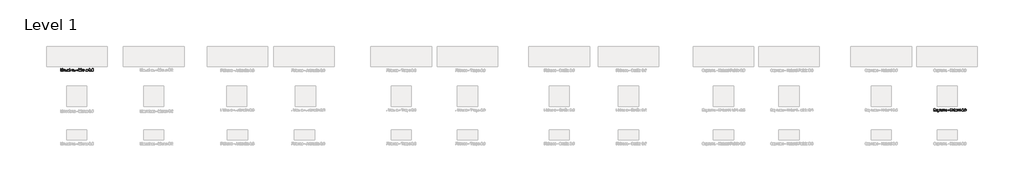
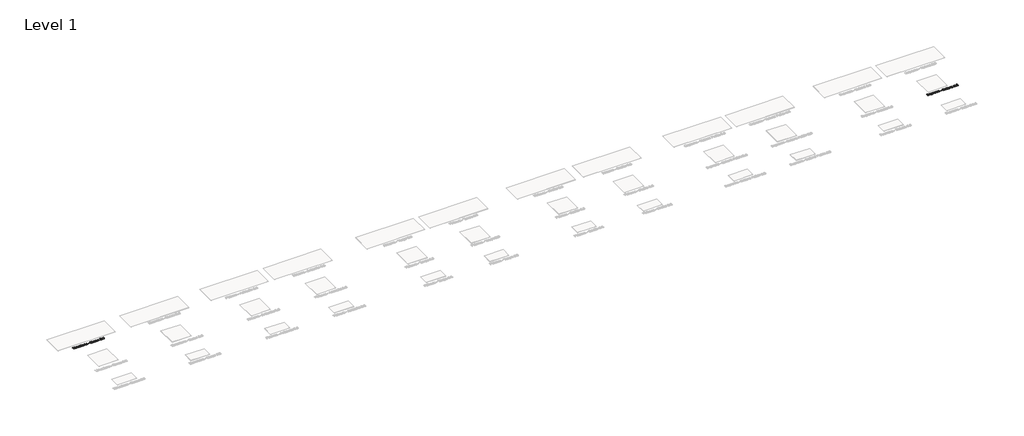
# One storey, part 40 of 80: 2 proxies.
"""IFC4 building model written with IfcOpenShell, lengths in millimetres."""

from ifc_helpers import new_model, si_unit, origin, origin_with_axes, place, context, project, spatial, polyline, outline, extrude, element, save

model = new_model("IFC4")

# Units and contexts
model_context = context("Model", 3, world=origin())
ifc_project = project(units=[si_unit("LENGTHUNIT", "METRE", prefix="MILLI")], contexts=[model_context])

# Site, building, storey
site = spatial("IfcSite", under=ifc_project)
building = spatial("IfcBuilding", under=site)
storey = spatial("IfcBuildingStorey", under=building, Name="Level 1", Elevation=0.0)

# Proxies
placement = place(None, origin())
element("IfcBuildingElementProxy", 1, Name="24\" Arial", ObjectType="24\" Arial", at=placement, inside=storey, context=model_context, shape_type="SweptSolid", body=[
    extrude(outline(polyline([(15932.6161998, -575.9830961), (15947.3854306, -575.9830961), (15952.1450459, -590.76675), (15963.7700459, -600.1129038), (15981.4815844, -603.6754038), (15996.9142767, -600.9782884), (16006.8806229, -593.5648269), (16010.1546613, -583.6561731), (16007.7027383, -574.4398269), (15997.6642767, -567.7330961), (15976.159469, -562.0936731), (15953.0104306, -554.8100192), (15940.4479306, -543.8196346), (15936.3085075, -529.1369423), (15941.4286998, -512.4205961), (15956.3854306, -500.6225192), (15978.2796613, -496.5984808), (16001.6450459, -500.8100192), (16017.221969, -513.1850192), (16023.0777383, -531.6754038), (16008.3085075, -531.6754038), (16005.596969, -522.8629038), (15999.9431229, -516.5023269), (15991.1089883, -512.6513654), (15978.8565844, -511.3677115), (15966.315719, -512.6369423), (15957.7123536, -516.4446346), (15952.7363921, -522.048), (15951.0777383, -528.70425), (15955.7796613, -538.9446346), (15979.8950459, -547.1946346), (16006.0296613, -554.6080961), (16020.3229306, -566.57925), (16024.9238921, -583.2811731), (16019.6306229, -600.9494423), (16004.3998536, -613.8436731), (15982.0585075, -618.4446346), (15955.6786998, -613.4830961), (15946.1919209, -607.26675), (15938.9911998, -598.5407884), (15932.6161998, -575.9830961)])), origin_with_axes(), (0.0, 0.0, 1.0), 2.0),
    extrude(outline(polyline([(16100.6161998, -616.5984808), (16100.6161998, -601.6850192), (16089.0488921, -614.2547308), (16073.9623536, -618.4446346), (16060.0729306, -615.5023269), (16050.4960075, -608.1177115), (16046.096969, -597.2427115), (16045.2315844, -583.5119423), (16045.2315844, -529.82925), (16060.0008152, -529.82925), (16060.0008152, -576.5600192), (16060.8950459, -591.6177115), (16066.7363921, -600.4590577), (16077.7411998, -603.6754038), (16090.0729306, -600.3869423), (16098.221969, -591.4302115), (16100.6161998, -574.9734808), (16100.6161998, -529.82925), (16115.3854306, -529.82925), (16115.3854306, -616.5984808), (16100.6161998, -616.5984808)])), origin_with_axes(), (0.0, 0.0, 1.0), 2.0),
    extrude(outline(polyline([(16135.6931229, -649.82925), (16135.6931229, -529.82925), (16150.4623536, -529.82925), (16150.4623536, -544.3100192), (16160.6738921, -532.0648269), (16174.4623536, -527.9830961), (16193.1835075, -533.6946346), (16205.4142767, -549.7907884), (16209.5392767, -572.5504038), (16204.8806229, -596.4782884), (16199.1690844, -605.8677115), (16191.3517767, -612.7763654), (16172.6738921, -618.4446346), (16159.8229306, -614.6513654), (16150.4623536, -605.0600192), (16150.4623536, -649.82925), (16135.6931229, -649.82925)]), holes=[polyline([(16150.4623536, -573.9061731), (16152.0597094, -587.1465577), (16156.8517767, -596.4061731), (16163.9226902, -601.8580961), (16172.3565844, -603.6754038), (16180.9274979, -601.7931923), (16188.1786998, -596.1465577), (16193.1222094, -586.548), (16194.7700459, -572.8100192), (16193.1618729, -559.64175), (16188.3373536, -550.2523269), (16181.2772575, -544.6273269), (16172.9623536, -542.7523269), (16164.6149979, -544.7463173), (16157.284469, -550.7282884), (16152.1678825, -560.5107404), (16150.4623536, -573.9061731)])]), origin_with_axes(), (0.0, 0.0, 1.0), 2.0),
    extrude(outline(polyline([(16226.1546613, -616.5984808), (16226.1546613, -529.82925), (16239.0777383, -529.82925), (16239.0777383, -542.6657884), (16248.2508152, -530.8388654), (16257.4815844, -527.9830961), (16272.3085075, -532.5407884), (16267.3758152, -545.7811731), (16256.9911998, -542.7523269), (16248.6402383, -545.6657884), (16243.3181229, -553.7427115), (16240.9238921, -570.9927115), (16240.9238921, -616.5984808), (16226.1546613, -616.5984808)])), origin_with_axes(), (0.0, 0.0, 1.0), 2.0),
    extrude(outline(polyline([(16342.2892767, -590.7523269), (16356.7700459, -592.5984808), (16351.5524979, -603.5095384), (16343.2267767, -611.6657884), (16331.9803825, -616.7499231), (16318.0008152, -618.4446346), (16300.6714883, -615.5203558), (16287.3373536, -606.7475192), (16278.8349498, -592.6958365), (16276.0008152, -573.9350192), (16278.8637959, -554.5431923), (16287.4527383, -540.0407884), (16300.6065844, -530.9975192), (16317.1642767, -527.9830961), (16333.206344, -530.9903077), (16346.0248536, -540.0119423), (16354.4299017, -554.4855), (16357.2315844, -573.8484808), (16357.1450459, -577.82925), (16290.7700459, -577.82925), (16293.3265363, -588.8845384), (16299.2652383, -597.0119423), (16307.8361517, -602.0095384), (16318.2892767, -603.6754038), (16332.7700459, -600.5888654), (16342.2892767, -590.7523269)]), holes=[polyline([(16290.7700459, -563.0600192), (16342.4623536, -563.0600192), (16336.5488921, -549.6754038), (16327.9383152, -544.4830961), (16317.1065844, -542.7523269), (16298.9190844, -548.2763654), (16293.1967286, -554.7342981), (16290.7700459, -563.0600192)])]), origin_with_axes(), (0.0, 0.0, 1.0), 2.0),
    extrude(outline(polyline([(16372.0008152, -616.5984808), (16372.0008152, -529.82925), (16386.7700459, -529.82925), (16386.7700459, -544.1080961), (16396.9238921, -532.4109808), (16411.3758152, -527.9830961), (16426.1738921, -532.4975192), (16434.3085075, -545.1465577), (16445.8325459, -532.2739615), (16460.3854306, -527.9830961), (16471.487594, -529.7679519), (16479.6979306, -535.1225192), (16484.7712479, -544.1910288), (16486.4623536, -557.1177115), (16486.4623536, -616.5984808), (16471.6931229, -616.5984808), (16471.6931229, -563.4638654), (16470.3229306, -551.1321346), (16465.3613921, -545.0600192), (16456.9238921, -542.7523269), (16448.9226902, -544.2306923), (16442.3998536, -548.6657884), (16438.0621133, -556.3605), (16436.6161998, -567.6177115), (16436.6161998, -616.5984808), (16421.846969, -616.5984808), (16421.846969, -561.8196346), (16418.4286998, -547.5119423), (16407.221969, -542.7523269), (16396.2892767, -545.9254038), (16389.0200459, -555.2138654), (16386.7700459, -572.8388654), (16386.7700459, -616.5984808), (16372.0008152, -616.5984808)])), origin_with_axes(), (0.0, 0.0, 1.0), 2.0),
    extrude(outline(polyline([(16569.3661998, -590.7523269), (16583.846969, -592.5984808), (16578.6294209, -603.5095384), (16570.3036998, -611.6657884), (16559.0573056, -616.7499231), (16545.0777383, -618.4446346), (16527.7484113, -615.5203558), (16514.4142767, -606.7475192), (16505.9118729, -592.6958365), (16503.0777383, -573.9350192), (16505.940719, -554.5431923), (16514.5296613, -540.0407884), (16527.6835075, -530.9975192), (16544.2411998, -527.9830961), (16560.2832671, -530.9903077), (16573.1017767, -540.0119423), (16581.5068248, -554.4855), (16584.3085075, -573.8484808), (16584.221969, -577.82925), (16517.846969, -577.82925), (16520.4034594, -588.8845384), (16526.3421613, -597.0119423), (16534.9130748, -602.0095384), (16545.3661998, -603.6754038), (16559.846969, -600.5888654), (16569.3661998, -590.7523269)]), holes=[polyline([(16517.846969, -563.0600192), (16569.5392767, -563.0600192), (16563.6258152, -549.6754038), (16555.0152383, -544.4830961), (16544.1835075, -542.7523269), (16525.9960075, -548.2763654), (16520.2736517, -554.7342981), (16517.846969, -563.0600192)])]), origin_with_axes(), (0.0, 0.0, 1.0), 2.0),
    extrude(outline(polyline([(16637.846969, -581.5215577), (16637.846969, -566.7523269), (16684.0008152, -566.7523269), (16684.0008152, -581.5215577), (16637.846969, -581.5215577)])), origin_with_axes(), (0.0, 0.0, 1.0), 2.0),
    extrude(outline(polyline([(16748.6161998, -616.5984808), (16748.6161998, -498.4446346), (16764.4238921, -498.4446346), (16826.1546613, -592.0504038), (16826.1546613, -498.4446346), (16840.9238921, -498.4446346), (16840.9238921, -616.5984808), (16825.1161998, -616.5984808), (16763.3854306, -522.9638654), (16763.3854306, -616.5984808), (16748.6161998, -616.5984808)])), origin_with_axes(), (0.0, 0.0, 1.0), 2.0),
    extrude(outline(polyline([(16920.3085075, -605.5215577), (16905.9863921, -615.5311731), (16890.1642767, -618.4446346), (16877.8217286, -616.6922308), (16868.7171613, -611.4350192), (16863.1029786, -603.4518461), (16861.2315844, -593.5215577), (16864.0585075, -581.8388654), (16871.4863921, -573.3580961), (16881.8277383, -568.5119423), (16894.6065844, -566.2907884), (16920.221969, -561.2138654), (16920.3085075, -557.9254038), (16916.2411998, -547.0215577), (16899.9142767, -542.7523269), (16884.971969, -545.5936731), (16877.846969, -555.6754038), (16863.0777383, -553.82925), (16869.4671613, -539.4061731), (16882.3325459, -530.95425), (16901.8181229, -527.9830961), (16919.7171613, -530.6080961), (16929.8277383, -537.1994423), (16934.3565844, -547.2234808), (16935.0777383, -560.1465577), (16935.0777383, -578.5215577), (16935.8277383, -604.1802115), (16938.7700459, -616.5984808), (16924.0008152, -616.5984808), (16920.3085075, -605.5215577)]), holes=[polyline([(16920.3085075, -575.9830961), (16896.4815844, -580.5119423), (16883.7748536, -582.9061731), (16878.0200459, -586.8004038), (16876.0008152, -592.4830961), (16880.3998536, -600.4734808), (16893.3085075, -603.6754038), (16908.2508152, -600.14175), (16917.8854306, -591.5888654), (16920.221969, -580.1657884), (16920.3085075, -575.9830961)])]), origin_with_axes(), (0.0, 0.0, 1.0), 2.0),
    extrude(outline(polyline([(16986.7700459, -604.2811731), (16988.6161998, -617.0311731), (16977.5681229, -618.4446346), (16965.1931229, -615.9927115), (16959.0200459, -609.5600192), (16957.2315844, -592.8004038), (16957.2315844, -544.5984808), (16946.1546613, -544.5984808), (16946.1546613, -529.82925), (16957.2315844, -529.82925), (16957.2315844, -508.7427115), (16972.0008152, -500.0600192), (16972.0008152, -529.82925), (16986.7700459, -529.82925), (16986.7700459, -544.5984808), (16972.0008152, -544.5984808), (16972.0008152, -592.3677115), (16972.7796613, -599.9830961), (16975.3036998, -602.6802115), (16980.3373536, -603.6754038), (16986.7700459, -604.2811731)])), origin_with_axes(), (0.0, 0.0, 1.0), 2.0),
    extrude(outline(polyline([(17056.9238921, -616.5984808), (17056.9238921, -601.6850192), (17045.3565844, -614.2547308), (17030.2700459, -618.4446346), (17016.3806229, -615.5023269), (17006.8036998, -608.1177115), (17002.4046613, -597.2427115), (17001.5392767, -583.5119423), (17001.5392767, -529.82925), (17016.3085075, -529.82925), (17016.3085075, -576.5600192), (17017.2027383, -591.6177115), (17023.0440844, -600.4590577), (17034.0488921, -603.6754038), (17046.3806229, -600.3869423), (17054.5296613, -591.4302115), (17056.9238921, -574.9734808), (17056.9238921, -529.82925), (17071.6931229, -529.82925), (17071.6931229, -616.5984808), (17056.9238921, -616.5984808)])), origin_with_axes(), (0.0, 0.0, 1.0), 2.0),
    extrude(outline(polyline([(17092.0008152, -616.5984808), (17092.0008152, -529.82925), (17104.9238921, -529.82925), (17104.9238921, -542.6657884), (17114.096969, -530.8388654), (17123.3277383, -527.9830961), (17138.1546613, -532.5407884), (17133.221969, -545.7811731), (17122.8373536, -542.7523269), (17114.4863921, -545.6657884), (17109.1642767, -553.7427115), (17106.7700459, -570.9927115), (17106.7700459, -616.5984808), (17092.0008152, -616.5984808)])), origin_with_axes(), (0.0, 0.0, 1.0), 2.0),
    extrude(outline(polyline([(17202.7700459, -605.5215577), (17188.4479306, -615.5311731), (17172.6258152, -618.4446346), (17160.2832671, -616.6922308), (17151.1786998, -611.4350192), (17145.5645171, -603.4518461), (17143.6931229, -593.5215577), (17146.5200459, -581.8388654), (17153.9479306, -573.3580961), (17164.2892767, -568.5119423), (17177.0681229, -566.2907884), (17202.6835075, -561.2138654), (17202.7700459, -557.9254038), (17198.7027383, -547.0215577), (17182.3758152, -542.7523269), (17167.4335075, -545.5936731), (17160.3085075, -555.6754038), (17145.5392767, -553.82925), (17151.9286998, -539.4061731), (17164.7940844, -530.95425), (17184.2796613, -527.9830961), (17202.1786998, -530.6080961), (17212.2892767, -537.1994423), (17216.8181229, -547.2234808), (17217.5392767, -560.1465577), (17217.5392767, -578.5215577), (17218.2892767, -604.1802115), (17221.2315844, -616.5984808), (17206.4623536, -616.5984808), (17202.7700459, -605.5215577)]), holes=[polyline([(17202.7700459, -575.9830961), (17178.9431229, -580.5119423), (17166.2363921, -582.9061731), (17160.4815844, -586.8004038), (17158.4623536, -592.4830961), (17162.8613921, -600.4734808), (17175.7700459, -603.6754038), (17190.7123536, -600.14175), (17200.346969, -591.5888654), (17202.6835075, -580.1657884), (17202.7700459, -575.9830961)])]), origin_with_axes(), (0.0, 0.0, 1.0), 2.0),
    extrude(outline(polyline([(17237.846969, -616.5984808), (17237.846969, -498.4446346), (17252.6161998, -498.4446346), (17252.6161998, -616.5984808), (17237.846969, -616.5984808)])), origin_with_axes(), (0.0, 0.0, 1.0), 2.0),
    extrude(outline(polyline([(17317.2315844, -585.2138654), (17332.0008152, -583.3677115), (17339.4431229, -598.5840577), (17354.8758152, -603.6754038), (17365.4623536, -601.9049711), (17373.3950459, -596.5936731), (17378.3493729, -588.3544904), (17380.0008152, -577.8004038), (17378.4539402, -567.8629038), (17373.8133152, -560.2619423), (17366.0428825, -555.4374231), (17355.1065844, -553.82925), (17342.1402383, -556.3965577), (17333.846969, -563.0600192), (17319.0777383, -561.2138654), (17332.0008152, -500.2907884), (17389.2315844, -500.2907884), (17389.2315844, -515.0600192), (17343.9431229, -515.0600192), (17337.6258152, -547.5984808), (17348.1762959, -541.1946346), (17359.2315844, -539.0600192), (17373.0308633, -541.7066538), (17384.4863921, -549.6465577), (17392.1991325, -561.7475192), (17394.7700459, -576.8773269), (17392.4551421, -591.6465577), (17385.5104306, -604.2811731), (17372.2123536, -614.9037692), (17354.8181229, -618.4446346), (17340.3121133, -616.1693942), (17328.7556229, -609.3436731), (17320.8337479, -598.7607404), (17317.2315844, -585.2138654)])), origin_with_axes(), (0.0, 0.0, 1.0), 2.0),
    extrude(outline(polyline([(17415.0777383, -616.5984808), (17415.0777383, -601.82925), (17429.846969, -601.82925), (17429.846969, -616.5984808), (17415.0777383, -616.5984808)])), origin_with_axes(), (0.0, 0.0, 1.0), 2.0),
    extrude(outline(polyline([(17529.5392767, -529.82925), (17514.7700459, -531.6754038), (17509.1738921, -519.3580961), (17502.4743729, -514.7499231), (17494.3758152, -513.2138654), (17481.0488921, -516.7907884), (17470.9671613, -530.2186731), (17466.7700459, -556.5407884), (17479.7940844, -544.7571346), (17495.9335075, -540.9061731), (17509.5777383, -543.5383846), (17521.0296613, -551.4350192), (17528.7964883, -563.4999231), (17531.3854306, -578.6369423), (17526.5104306, -599.01675), (17513.096969, -613.4398269), (17493.7411998, -618.4446346), (17476.9851902, -615.1273269), (17463.6402383, -605.1754038), (17454.9106709, -587.6080961), (17452.0008152, -561.4446346), (17455.2315844, -532.0287692), (17464.9238921, -511.9157884), (17478.1570652, -501.8124231), (17495.2988921, -498.4446346), (17508.2580267, -500.5287692), (17518.6354306, -506.7811731), (17525.9046613, -516.7114615), (17529.5392767, -529.82925)]), holes=[polyline([(17466.7700459, -578.4061731), (17470.1883152, -591.1994423), (17479.2748536, -600.4879038), (17492.5873536, -603.6754038), (17502.3337479, -602.0239615), (17509.9960075, -597.0696346), (17514.9611517, -589.2811731), (17516.6161998, -579.1273269), (17514.9827863, -569.3809327), (17510.0825459, -561.9494423), (17502.2904786, -557.2439134), (17491.9815844, -555.6754038), (17482.2496133, -557.2439134), (17474.1113921, -561.9494423), (17468.6053825, -569.2006442), (17466.7700459, -578.4061731)])]), origin_with_axes(), (0.0, 0.0, 1.0), 2.0),
])
element("IfcBuildingElementProxy", 2, Name="24\" Arial", ObjectType="24\" Arial", at=placement, inside=storey, context=model_context, shape_type="SweptSolid", body=[
    extrude(outline(polyline([(-27251.3838002, 1365.2173189), (-27251.3838002, 1483.3711651), (-27236.6145694, 1483.3711651), (-27236.6145694, 1379.9865497), (-27177.5376464, 1379.9865497), (-27177.5376464, 1365.2173189), (-27251.3838002, 1365.2173189)])), origin_with_axes(), (0.0, 0.0, 1.0), 2.0),
    extrude(outline(polyline([(-27162.7684156, 1468.6019343), (-27162.7684156, 1483.3711651), (-27147.9991848, 1483.3711651), (-27147.9991848, 1468.6019343), (-27162.7684156, 1468.6019343)])), origin_with_axes(), (0.0, 0.0, 1.0), 2.0),
    extrude(outline(polyline([(-27162.7684156, 1365.2173189), (-27162.7684156, 1451.9865497), (-27147.9991848, 1451.9865497), (-27147.9991848, 1365.2173189), (-27162.7684156, 1365.2173189)])), origin_with_axes(), (0.0, 0.0, 1.0), 2.0),
    extrude(outline(polyline([(-27125.8453387, 1365.2173189), (-27125.8453387, 1451.9865497), (-27111.0761079, 1451.9865497), (-27111.0761079, 1437.7077035), (-27100.9222617, 1449.4048189), (-27086.4703387, 1453.8327035), (-27071.6722617, 1449.3182805), (-27063.5376464, 1436.669242), (-27052.0136079, 1449.5418381), (-27037.4607233, 1453.8327035), (-27026.3585598, 1452.0478478), (-27018.1482233, 1446.6932805), (-27013.074906, 1437.6247708), (-27011.3838002, 1424.6980881), (-27011.3838002, 1365.2173189), (-27026.153031, 1365.2173189), (-27026.153031, 1418.3519343), (-27027.5232233, 1430.6836651), (-27032.4847617, 1436.7557805), (-27040.9222617, 1439.0634728), (-27048.9234637, 1437.5851074), (-27055.4463002, 1433.1500112), (-27059.7840406, 1425.4552997), (-27061.2299541, 1414.1980881), (-27061.2299541, 1365.2173189), (-27075.9991848, 1365.2173189), (-27075.9991848, 1419.9961651), (-27079.4174541, 1434.3038574), (-27090.6241848, 1439.0634728), (-27101.5568771, 1435.8903958), (-27108.8261079, 1426.6019343), (-27111.0761079, 1408.9769343), (-27111.0761079, 1365.2173189), (-27125.8453387, 1365.2173189)])), origin_with_axes(), (0.0, 0.0, 1.0), 2.0),
    extrude(outline(polyline([(-26928.4799541, 1391.0634728), (-26913.9991848, 1389.2173189), (-26919.2167329, 1378.3062612), (-26927.5424541, 1370.1500112), (-26938.7888483, 1365.0658766), (-26952.7684156, 1363.3711651), (-26970.0977425, 1366.2954439), (-26983.4318771, 1375.0682805), (-26991.934281, 1389.1199631), (-26994.7684156, 1407.8807805), (-26991.9054348, 1427.2726074), (-26983.3164925, 1441.7750112), (-26970.1626464, 1450.8182805), (-26953.6049541, 1453.8327035), (-26937.5628867, 1450.825492), (-26924.7443771, 1441.8038574), (-26916.3393291, 1427.3302997), (-26913.5376464, 1407.9673189), (-26913.6241848, 1403.9865497), (-26979.9991848, 1403.9865497), (-26977.4426944, 1392.9312612), (-26971.5039925, 1384.8038574), (-26962.9330791, 1379.8062612), (-26952.4799541, 1378.1403958), (-26937.9991848, 1381.2269343), (-26928.4799541, 1391.0634728)]), holes=[polyline([(-26979.9991848, 1418.7557805), (-26928.3068771, 1418.7557805), (-26934.2203387, 1432.1403958), (-26942.8309156, 1437.3327035), (-26953.6626464, 1439.0634728), (-26971.8501464, 1433.5394343), (-26977.5725021, 1427.0815016), (-26979.9991848, 1418.7557805)])]), origin_with_axes(), (0.0, 0.0, 1.0), 2.0),
    extrude(outline(polyline([(-26904.3068771, 1391.0634728), (-26889.5376464, 1392.9096266), (-26882.7011079, 1381.9480881), (-26867.0376464, 1378.1403958), (-26851.9799541, 1381.6307805), (-26847.0761079, 1389.8230881), (-26852.0088002, 1396.4577035), (-26867.2107233, 1400.669242), (-26889.4511079, 1407.8952035), (-26899.1578387, 1416.3327035), (-26902.4607233, 1428.2461651), (-26899.8068771, 1439.2509728), (-26892.5664925, 1447.6596266), (-26883.1770694, 1452.0298189), (-26870.4703387, 1453.8327035), (-26852.4991848, 1450.9336651), (-26841.0761079, 1443.0875112), (-26835.9991848, 1429.8327035), (-26850.7684156, 1427.9865497), (-26856.3213002, 1436.1355881), (-26869.3164925, 1439.0634728), (-26883.4511079, 1436.2653958), (-26887.6914925, 1429.7461651), (-26885.9318771, 1425.4480881), (-26880.4222617, 1422.1884728), (-26867.7011079, 1419.044242), (-26846.0232233, 1412.0923189), (-26835.9559156, 1404.2173189), (-26832.3068771, 1391.3807805), (-26836.590531, 1377.2461651), (-26848.9511079, 1366.9913574), (-26867.2395694, 1363.3711651), (-26882.1313964, 1365.1163574), (-26892.9991848, 1370.3519343), (-26900.2539925, 1379.0202035), (-26904.3068771, 1391.0634728)])), origin_with_axes(), (0.0, 0.0, 1.0), 2.0),
    extrude(outline(polyline([(-26784.3068771, 1377.5346266), (-26782.4607233, 1364.7846266), (-26793.5088002, 1363.3711651), (-26805.8838002, 1365.8230881), (-26812.0568771, 1372.2557805), (-26813.8453387, 1389.0153958), (-26813.8453387, 1437.2173189), (-26824.9222617, 1437.2173189), (-26824.9222617, 1451.9865497), (-26813.8453387, 1451.9865497), (-26813.8453387, 1473.0730881), (-26799.0761079, 1481.7557805), (-26799.0761079, 1451.9865497), (-26784.3068771, 1451.9865497), (-26784.3068771, 1437.2173189), (-26799.0761079, 1437.2173189), (-26799.0761079, 1389.4480881), (-26798.2972617, 1381.8327035), (-26795.7732233, 1379.1355881), (-26790.7395694, 1378.1403958), (-26784.3068771, 1377.5346266)])), origin_with_axes(), (0.0, 0.0, 1.0), 2.0),
    extrude(outline(polyline([(-26773.2299541, 1408.6019343), (-26770.0352425, 1429.5226074), (-26760.4511079, 1444.2269343), (-26748.6097617, 1451.4312612), (-26734.4318771, 1453.8327035), (-26718.9162521, 1450.9084247), (-26706.5232233, 1442.1355881), (-26698.3994252, 1428.2065016), (-26695.6914925, 1409.8134728), (-26700.4799541, 1383.5346266), (-26714.4270694, 1368.6644343), (-26734.4318771, 1363.3711651), (-26750.1350021, 1366.2846266), (-26762.5136079, 1375.0250112), (-26770.5508675, 1389.2461651), (-26773.2299541, 1408.6019343)]), holes=[polyline([(-26758.4607233, 1408.6307805), (-26756.7515887, 1395.2641939), (-26751.6241848, 1385.7413574), (-26743.9078387, 1380.0406362), (-26734.4318771, 1378.1403958), (-26724.9991848, 1380.0514535), (-26717.2972617, 1385.7846266), (-26712.1698579, 1395.4336651), (-26710.4607233, 1409.0923189), (-26712.1806752, 1422.0694824), (-26717.340531, 1431.4625112), (-26725.0532714, 1437.1632324), (-26734.4318771, 1439.0634728), (-26743.9078387, 1437.1704439), (-26751.6241848, 1431.4913574), (-26756.7515887, 1421.9901555), (-26758.4607233, 1408.6307805)])]), origin_with_axes(), (0.0, 0.0, 1.0), 2.0),
    extrude(outline(polyline([(-26679.0761079, 1365.2173189), (-26679.0761079, 1451.9865497), (-26664.3068771, 1451.9865497), (-26664.3068771, 1439.8711651), (-26653.0136079, 1450.3423189), (-26637.5953387, 1453.8327035), (-26623.6482233, 1451.0202035), (-26614.1289925, 1443.6355881), (-26609.7011079, 1432.7750112), (-26608.9222617, 1418.4961651), (-26608.9222617, 1365.2173189), (-26623.6914925, 1365.2173189), (-26623.6914925, 1416.5057805), (-26625.3934156, 1429.5730881), (-26631.4078387, 1436.481742), (-26641.5472617, 1439.0634728), (-26657.5713002, 1433.2653958), (-26662.6229829, 1424.8639535), (-26664.3068771, 1411.2557805), (-26664.3068771, 1365.2173189), (-26679.0761079, 1365.2173189)])), origin_with_axes(), (0.0, 0.0, 1.0), 2.0),
    extrude(outline(polyline([(-26527.8645694, 1391.0634728), (-26513.3838002, 1389.2173189), (-26518.6013483, 1378.3062612), (-26526.9270694, 1370.1500112), (-26538.1734637, 1365.0658766), (-26552.153031, 1363.3711651), (-26569.4823579, 1366.2954439), (-26582.8164925, 1375.0682805), (-26591.3188964, 1389.1199631), (-26594.153031, 1407.8807805), (-26591.2900502, 1427.2726074), (-26582.7011079, 1441.7750112), (-26569.5472617, 1450.8182805), (-26552.9895694, 1453.8327035), (-26536.9475021, 1450.825492), (-26524.1289925, 1441.8038574), (-26515.7239444, 1427.3302997), (-26512.9222617, 1407.9673189), (-26513.0088002, 1403.9865497), (-26579.3838002, 1403.9865497), (-26576.8273098, 1392.9312612), (-26570.8886079, 1384.8038574), (-26562.3176944, 1379.8062612), (-26551.8645694, 1378.1403958), (-26537.3838002, 1381.2269343), (-26527.8645694, 1391.0634728)]), holes=[polyline([(-26579.3838002, 1418.7557805), (-26527.6914925, 1418.7557805), (-26533.6049541, 1432.1403958), (-26542.215531, 1437.3327035), (-26553.0472617, 1439.0634728), (-26571.2347617, 1433.5394343), (-26576.9571175, 1427.0815016), (-26579.3838002, 1418.7557805)])]), origin_with_axes(), (0.0, 0.0, 1.0), 2.0),
    extrude(outline(polyline([(-26459.3838002, 1400.294242), (-26459.3838002, 1415.0634728), (-26413.2299541, 1415.0634728), (-26413.2299541, 1400.294242), (-26459.3838002, 1400.294242)])), origin_with_axes(), (0.0, 0.0, 1.0), 2.0),
    extrude(outline(polyline([(-26348.6145694, 1365.2173189), (-26348.6145694, 1483.3711651), (-26323.2011079, 1483.3711651), (-26299.028031, 1400.0923189), (-26294.153031, 1382.6980881), (-26288.8741848, 1401.5346266), (-26265.1049541, 1483.3711651), (-26239.6914925, 1483.3711651), (-26239.6914925, 1365.2173189), (-26254.4607233, 1365.2173189), (-26254.4607233, 1468.6019343), (-26284.1434156, 1365.2173189), (-26304.1626464, 1365.2173189), (-26333.8453387, 1468.6019343), (-26333.8453387, 1365.2173189), (-26348.6145694, 1365.2173189)])), origin_with_axes(), (0.0, 0.0, 1.0), 2.0),
    extrude(outline(polyline([(-26160.3068771, 1376.294242), (-26174.6289925, 1366.2846266), (-26190.4511079, 1363.3711651), (-26202.793656, 1365.1235689), (-26211.8982233, 1370.3807805), (-26217.512406, 1378.3639535), (-26219.3838002, 1388.294242), (-26216.5568771, 1399.9769343), (-26209.1289925, 1408.4577035), (-26198.7876464, 1413.3038574), (-26186.0088002, 1415.5250112), (-26160.3934156, 1420.6019343), (-26160.3068771, 1423.8903958), (-26164.3741848, 1434.794242), (-26180.7011079, 1439.0634728), (-26195.6434156, 1436.2221266), (-26202.7684156, 1426.1403958), (-26217.5376464, 1427.9865497), (-26211.1482233, 1442.4096266), (-26198.2828387, 1450.8615497), (-26178.7972617, 1453.8327035), (-26160.8982233, 1451.2077035), (-26150.7876464, 1444.6163574), (-26146.2588002, 1434.5923189), (-26145.5376464, 1421.669242), (-26145.5376464, 1403.294242), (-26144.7876464, 1377.6355881), (-26141.8453387, 1365.2173189), (-26156.6145694, 1365.2173189), (-26160.3068771, 1376.294242)]), holes=[polyline([(-26160.3068771, 1405.8327035), (-26184.1338002, 1401.3038574), (-26196.840531, 1398.9096266), (-26202.5953387, 1395.0153958), (-26204.6145694, 1389.3327035), (-26200.215531, 1381.3423189), (-26187.3068771, 1378.1403958), (-26172.3645694, 1381.6740497), (-26162.7299541, 1390.2269343), (-26160.3934156, 1401.6500112), (-26160.3068771, 1405.8327035)])]), origin_with_axes(), (0.0, 0.0, 1.0), 2.0),
    extrude(outline(polyline([(-26125.2299541, 1365.2173189), (-26125.2299541, 1451.9865497), (-26112.3068771, 1451.9865497), (-26112.3068771, 1439.1500112), (-26103.1338002, 1450.9769343), (-26093.903031, 1453.8327035), (-26079.0761079, 1449.2750112), (-26084.0088002, 1436.0346266), (-26094.3934156, 1439.0634728), (-26102.7443771, 1436.1500112), (-26108.0664925, 1428.0730881), (-26110.4607233, 1410.8230881), (-26110.4607233, 1365.2173189), (-26125.2299541, 1365.2173189)])), origin_with_axes(), (0.0, 0.0, 1.0), 2.0),
    extrude(outline(polyline([(-26073.5376464, 1408.6019343), (-26070.3429348, 1429.5226074), (-26060.7588002, 1444.2269343), (-26048.9174541, 1451.4312612), (-26034.7395694, 1453.8327035), (-26019.2239444, 1450.9084247), (-26006.8309156, 1442.1355881), (-25998.7071175, 1428.2065016), (-25995.9991848, 1409.8134728), (-26000.7876464, 1383.5346266), (-26014.7347617, 1368.6644343), (-26034.7395694, 1363.3711651), (-26050.4426944, 1366.2846266), (-26062.8213002, 1375.0250112), (-26070.8585598, 1389.2461651), (-26073.5376464, 1408.6019343)]), holes=[polyline([(-26058.7684156, 1408.6307805), (-26057.059281, 1395.2641939), (-26051.9318771, 1385.7413574), (-26044.215531, 1380.0406362), (-26034.7395694, 1378.1403958), (-26025.3068771, 1380.0514535), (-26017.6049541, 1385.7846266), (-26012.4775502, 1395.4336651), (-26010.7684156, 1409.0923189), (-26012.4883675, 1422.0694824), (-26017.6482233, 1431.4625112), (-26025.3609637, 1437.1632324), (-26034.7395694, 1439.0634728), (-26044.215531, 1437.1704439), (-26051.9318771, 1431.4913574), (-26057.059281, 1421.9901555), (-26058.7684156, 1408.6307805)])]), origin_with_axes(), (0.0, 0.0, 1.0), 2.0),
    extrude(outline(polyline([(-25979.3838002, 1365.2173189), (-25979.3838002, 1451.9865497), (-25964.6145694, 1451.9865497), (-25964.6145694, 1439.8711651), (-25953.3213002, 1450.3423189), (-25937.903031, 1453.8327035), (-25923.9559156, 1451.0202035), (-25914.4366848, 1443.6355881), (-25910.0088002, 1432.7750112), (-25909.2299541, 1418.4961651), (-25909.2299541, 1365.2173189), (-25923.9991848, 1365.2173189), (-25923.9991848, 1416.5057805), (-25925.7011079, 1429.5730881), (-25931.715531, 1436.481742), (-25941.8549541, 1439.0634728), (-25957.8789925, 1433.2653958), (-25962.9306752, 1424.8639535), (-25964.6145694, 1411.2557805), (-25964.6145694, 1365.2173189), (-25979.3838002, 1365.2173189)])), origin_with_axes(), (0.0, 0.0, 1.0), 2.0),
    extrude(outline(polyline([(-25846.4607233, 1396.6019343), (-25831.6914925, 1398.4480881), (-25823.5424541, 1382.9000112), (-25808.2972617, 1378.1403958), (-25798.1722617, 1379.7774151), (-25790.3549541, 1384.6884728), (-25785.3573579, 1392.0153958), (-25783.6914925, 1400.9000112), (-25785.3429348, 1409.3339055), (-25790.2972617, 1416.1740497), (-25797.7972617, 1420.7065016), (-25807.0857233, 1422.2173189), (-25817.4414925, 1420.6019343), (-25815.7972617, 1435.3711651), (-25813.4318771, 1435.1980881), (-25796.6722617, 1439.4384728), (-25791.090531, 1444.8182805), (-25789.2299541, 1452.4769343), (-25794.6241848, 1464.0298189), (-25808.528031, 1468.6019343), (-25822.6049541, 1463.9865497), (-25829.8453387, 1450.1403958), (-25844.6145694, 1451.9865497), (-25840.2660117, 1465.2485689), (-25832.528031, 1475.1500112), (-25821.9414925, 1481.3158766), (-25809.0472617, 1483.3711651), (-25791.2347617, 1479.3182805), (-25778.7732233, 1468.2413574), (-25774.4607233, 1453.3423189), (-25778.5568771, 1439.7269343), (-25790.6722617, 1429.9480881), (-25781.4270694, 1426.2125112), (-25774.5761079, 1419.8519343), (-25770.3357233, 1411.2125112), (-25768.9222617, 1400.6403958), (-25771.7491848, 1386.2461651), (-25780.2299541, 1374.2173189), (-25793.0304348, 1366.0827035), (-25808.8164925, 1363.3711651), (-25823.0953387, 1365.6860689), (-25834.7203387, 1372.6307805), (-25842.8044733, 1383.2533766), (-25846.4607233, 1396.6019343)])), origin_with_axes(), (0.0, 0.0, 1.0), 2.0),
    extrude(outline(polyline([(-25748.6145694, 1365.2173189), (-25748.6145694, 1379.9865497), (-25733.8453387, 1379.9865497), (-25733.8453387, 1365.2173189), (-25748.6145694, 1365.2173189)])), origin_with_axes(), (0.0, 0.0, 1.0), 2.0),
    extrude(outline(polyline([(-25709.8453387, 1396.6019343), (-25695.0761079, 1398.4480881), (-25687.6338002, 1383.231742), (-25672.2011079, 1378.1403958), (-25661.6145694, 1379.9108285), (-25653.6818771, 1385.2221266), (-25648.7275502, 1393.4613093), (-25647.0761079, 1404.0153958), (-25648.6229829, 1413.9528958), (-25653.2636079, 1421.5538574), (-25661.0340406, 1426.3783766), (-25671.9703387, 1427.9865497), (-25684.9366848, 1425.419242), (-25693.2299541, 1418.7557805), (-25707.9991848, 1420.6019343), (-25695.0761079, 1481.5250112), (-25637.8453387, 1481.5250112), (-25637.8453387, 1466.7557805), (-25683.1338002, 1466.7557805), (-25689.4511079, 1434.2173189), (-25678.9006271, 1440.6211651), (-25667.8453387, 1442.7557805), (-25654.0460598, 1440.1091458), (-25642.590531, 1432.169242), (-25634.8777906, 1420.0682805), (-25632.3068771, 1404.9384728), (-25634.621781, 1390.169242), (-25641.5664925, 1377.5346266), (-25654.8645694, 1366.9120305), (-25672.2588002, 1363.3711651), (-25686.7648098, 1365.6464055), (-25698.3213002, 1372.4721266), (-25706.2431752, 1383.0550593), (-25709.8453387, 1396.6019343)])), origin_with_axes(), (0.0, 0.0, 1.0), 2.0),
])

save(model, "model.ifc")
